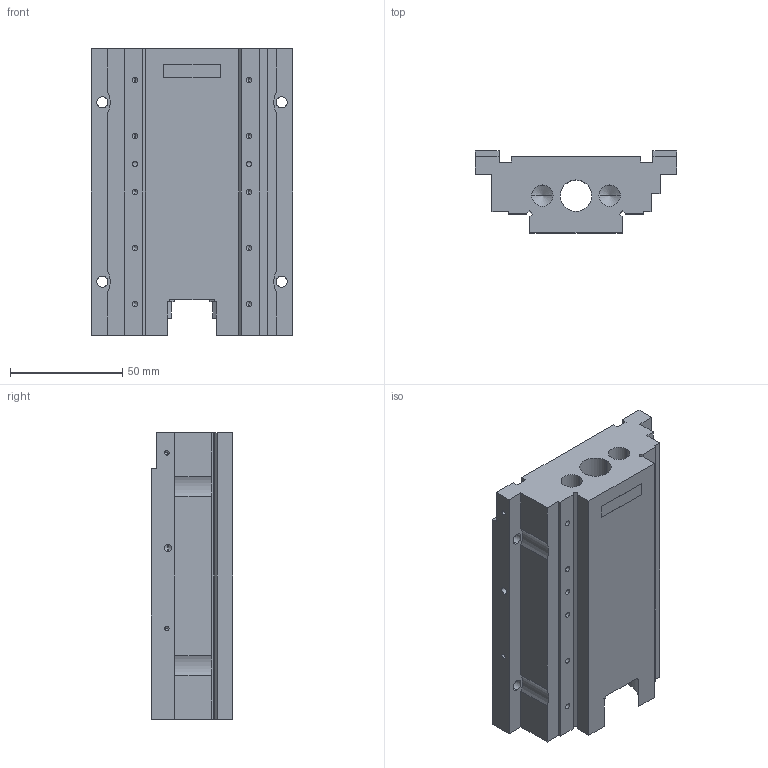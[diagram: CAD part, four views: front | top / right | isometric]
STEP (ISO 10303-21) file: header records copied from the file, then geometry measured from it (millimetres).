
FILE_DESCRIPTION (( 'STEP AP203' ), '1' );
FILE_NAME ('chariot.STEP', '2009-12-04T11:45:19', ( 'Famille Couzi' ), ( '' ), 'SwSTEP 2.0', 'SolidWorks 2005143', '' );
FILE_SCHEMA (( 'CONFIG_CONTROL_DESIGN' ));
Length unit declared in the file: millimetre
Products named in the file (1): chariot
Bounding box: 90 x 36.5 x 128 mm (x, y, z)
Volume: 248839 mm3; surface area: 52127 mm2
Topology: 1 solids, 1 shells, 195 faces, 529 edges, 317 vertices
Faces by surface type: cylinder 92, plane 59, cone 44
Entity records: 6412 total; most frequent: CARTESIAN_POINT 1514, DIRECTION 1013, ORIENTED_EDGE 974, EDGE_CURVE 487, AXIS2_PLACEMENT_3D 360, VERTEX_POINT 317, LINE 293, VECTOR 293
